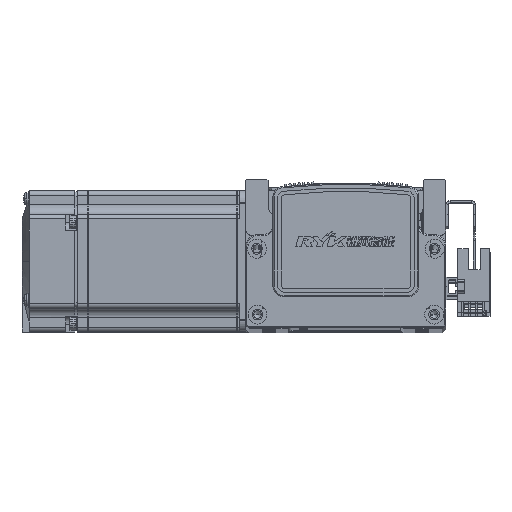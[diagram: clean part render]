
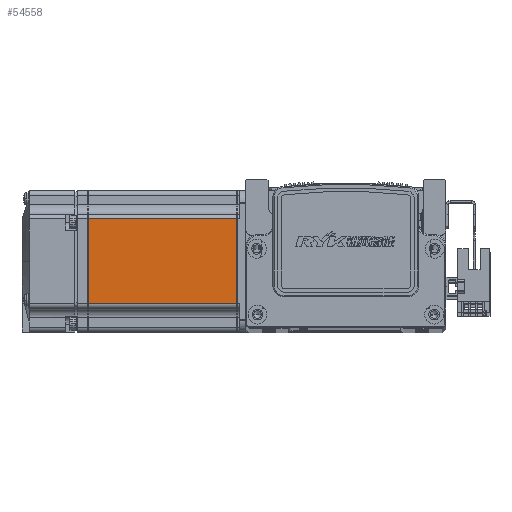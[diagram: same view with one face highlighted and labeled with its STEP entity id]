
A CAD part, top view. The second image highlights one B-rep face of the part: STEP entity #54558.
In plain terms, the highlighted planar face has unit normal (0, 0, 1) as drawn and (0, 0, -1) by its records, which use the part's own axes.
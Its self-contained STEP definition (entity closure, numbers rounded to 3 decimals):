
#10520 = DIRECTION ( 'NONE',  ( -1., 0., 0. ) ) ;
#10522 = CARTESIAN_POINT ( 'NONE',  ( -6.5, 25., -30. ) ) ;
#10526 = DIRECTION ( 'NONE',  ( 0., 0., -1. ) ) ;
#10528 = PLANE ( 'NONE',  #70259 ) ;
#11299 = ORIENTED_EDGE ( 'NONE', *, *, #64646, .T. ) ;
#11316 = ORIENTED_EDGE ( 'NONE', *, *, #64617, .T. ) ;
#11348 = ORIENTED_EDGE ( 'NONE', *, *, #64645, .T. ) ;
#11441 = ORIENTED_EDGE ( 'NONE', *, *, #64628, .T. ) ;
#44415 = VERTEX_POINT ( 'NONE', #52076 ) ;
#44416 = VERTEX_POINT ( 'NONE', #52107 ) ;
#44418 = VERTEX_POINT ( 'NONE', #52027 ) ;
#44423 = VERTEX_POINT ( 'NONE', #52018 ) ;
#52018 = CARTESIAN_POINT ( 'NONE',  ( -7.75, 18., -30. ) ) ;
#52027 = CARTESIAN_POINT ( 'NONE',  ( -70.95, 18., -30. ) ) ;
#52076 = CARTESIAN_POINT ( 'NONE',  ( -7.75, -18., -30. ) ) ;
#52107 = CARTESIAN_POINT ( 'NONE',  ( -70.95, -18., -30. ) ) ;
#54558 = ADVANCED_FACE ( 'NONE', ( #62599 ), #10528, .T. ) ;
#62599 = FACE_OUTER_BOUND ( 'NONE', #81482, .T. ) ;
#62958 = LINE ( 'NONE', #79611, #62977 ) ;
#62977 = VECTOR ( 'NONE', #79621, 1000. ) ;
#63038 = LINE ( 'NONE', #79595, #63042 ) ;
#63042 = VECTOR ( 'NONE', #79619, 1000. ) ;
#63051 = VECTOR ( 'NONE', #79664, 1000. ) ;
#63053 = LINE ( 'NONE', #79660, #63060 ) ;
#63060 = VECTOR ( 'NONE', #79663, 1000. ) ;
#63108 = LINE ( 'NONE', #79673, #63051 ) ;
#64617 = EDGE_CURVE ( 'NONE', #44418, #44423, #63038, .T. ) ;
#64628 = EDGE_CURVE ( 'NONE', #44423, #44415, #62958, .T. ) ;
#64645 = EDGE_CURVE ( 'NONE', #44416, #44418, #63108, .T. ) ;
#64646 = EDGE_CURVE ( 'NONE', #44415, #44416, #63053, .T. ) ;
#70259 = AXIS2_PLACEMENT_3D ( 'NONE', #10522, #10526, #10520 ) ;
#79595 = CARTESIAN_POINT ( 'NONE',  ( -6.5, 18., -30. ) ) ;
#79611 = CARTESIAN_POINT ( 'NONE',  ( -7.75, 25., -30. ) ) ;
#79619 = DIRECTION ( 'NONE',  ( 1., 0., 0. ) ) ;
#79621 = DIRECTION ( 'NONE',  ( 0., -1., 0. ) ) ;
#79660 = CARTESIAN_POINT ( 'NONE',  ( -6.5, -18., -30. ) ) ;
#79663 = DIRECTION ( 'NONE',  ( -1., 0., 0. ) ) ;
#79664 = DIRECTION ( 'NONE',  ( 0., 1., 0. ) ) ;
#79673 = CARTESIAN_POINT ( 'NONE',  ( -70.95, 25., -30. ) ) ;
#81482 = EDGE_LOOP ( 'NONE', ( #11441, #11299, #11348, #11316 ) ) ;
